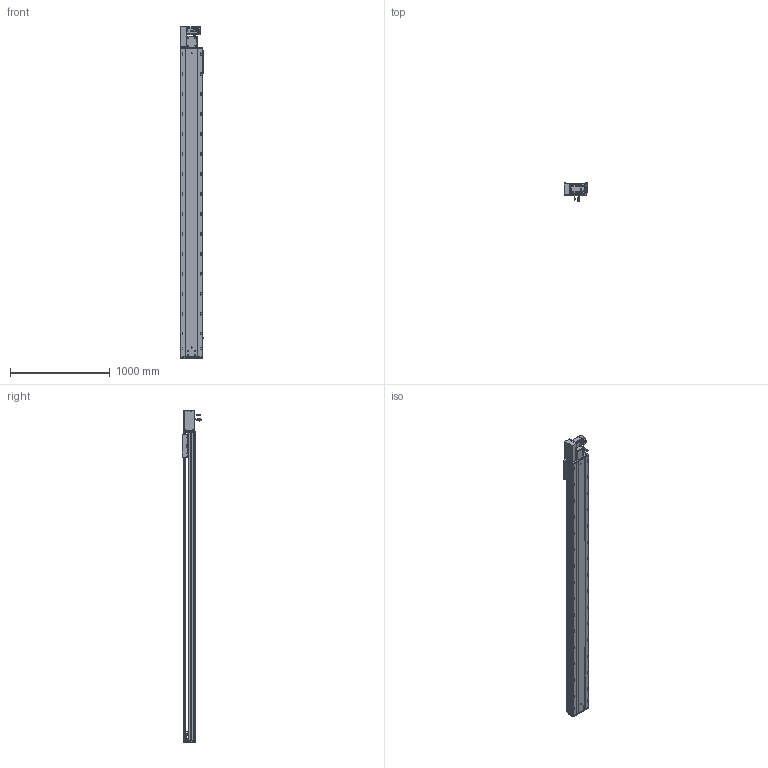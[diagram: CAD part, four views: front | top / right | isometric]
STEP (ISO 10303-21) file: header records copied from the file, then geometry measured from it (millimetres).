
FILE_DESCRIPTION (( 'STEP AP203' ), '1' );
FILE_NAME ('RY220-T-300-LK.SLDASM_2750.step', '2022-07-25T08:16:17', ( '' ), ( '' ), 'SwSTEP 2.0', 'SolidWorks 2016', '' );
FILE_SCHEMA (( 'CONFIG_CONTROL_DESIGN' ));
Length unit declared in the file: millimetre
Products named in the file (14): 怢湛750W_ECMA-CX0807ES; 覜茼ん672; RY220圉猾敕々湍臏賑輸; RY220-T-蛌殏萇儂假蚾啣(750W); RY220-T-湍謫欶(鍼踢); RY220翋肮祭謫釱; RY220翋肮祭謫裔啣; RY220-T菁釱-300_2750; RY220-同步轮副支撑座6304×2; 滅袉蝶18-15; RY220-俋离672覜茼んえ; 110A-T-肮祭謫釱傷裔; RY220-T-300-奻裔啣_2750; RY220-T-300-LK.SLDASM_2750
Assembly tree (18 placements, depth 2):
  RY220-T-300-LK.SLDASM_2750
    RY220-T菁釱-300_2750
    RY220翋肮祭謫釱
    覜茼ん672  x3
    RY220圉猾敕々湍臏賑輸
    RY220-T-300-奻裔啣_2750
    RY220-俋离672覜茼んえ
    滅袉蝶18-15  x3
    RY220翋肮祭謫裔啣  x2
    110A-T-肮祭謫釱傷裔
    怢湛750W_ECMA-CX0807ES
    RY220-T-湍謫欶(鍼踢)
    RY220-T-蛌殏萇儂假蚾啣(750W)
    RY220-同步轮副支撑座6304×2
Bounding box: 239.7 x 198.77 x 3329 mm (x, y, z)
Volume: 23585506.5 mm3; surface area: 7271844 mm2
Topology: 19 solids, 19 shells, 2982 faces, 8247 edges, 5168 vertices
Faces by surface type: cylinder 1466, plane 1069, cone 365, bspline 56, sphere 16, torus 10
Entity records: 99411 total; most frequent: CARTESIAN_POINT 28053, ORIENTED_EDGE 14746, DIRECTION 14224, EDGE_CURVE 7373, AXIS2_PLACEMENT_3D 5128, VERTEX_POINT 4792, LINE 3968, VECTOR 3968
